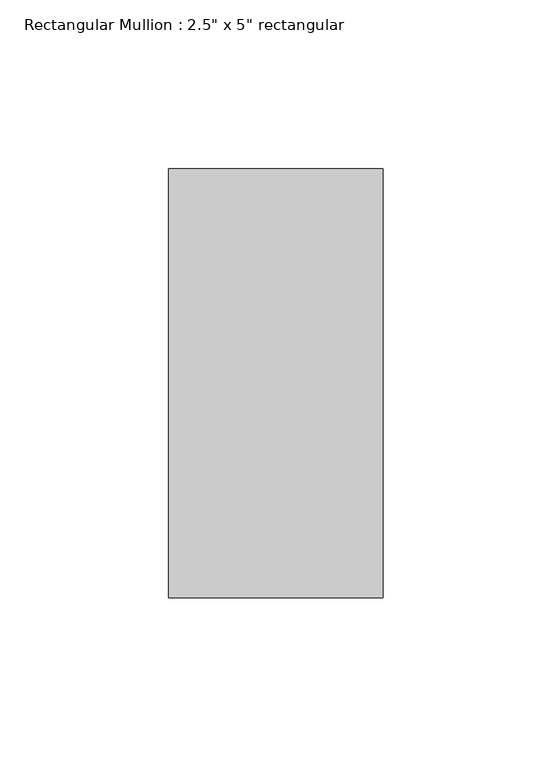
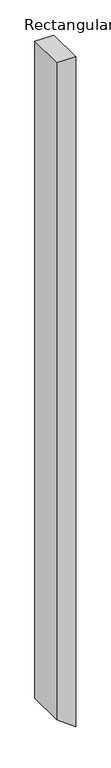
"""IFC4 building model written with IfcOpenShell, lengths in millimetres: member geometry."""

from ifc_helpers import new_model, si_unit, frame, origin, place, context, project, spatial, polyline, outline, extrude, source, transform, mapped, element, save


def member_66bcd2d2(model_context):
    return source(origin(), model_context, "Body", "SweptSolid", [
        extrude(outline(polyline([(0.0, 0.0), (0.6562719, -63.5), (-2334.7567002, -63.5), (-2382.1318198, 0.0), (0.0, 0.0)])), frame((0.0, -63.5, 0.0), z_axis=(0.0, 1.0, 0.0), x_axis=(0.0, 0.0, 1.0)), (0.0, 0.0, 1.0), 127.0),
    ])


if __name__ == "__main__":
    model = new_model("IFC4")
    model_context = context("Model", 3, world=origin())
    ifc_project = project(units=[si_unit("LENGTHUNIT", "METRE", prefix="MILLI")], contexts=[model_context])
    site = spatial("IfcSite", under=ifc_project)
    building = spatial("IfcBuilding", under=site)
    placement = place(None, origin())
    member_shape = member_66bcd2d2(model_context)
    element("IfcMember", 1, ObjectType="Rectangular Mullion : 2.5\" x 5\" rectangular", at=placement, inside=building, context=model_context, shape_type="MappedRepresentation", body=[
        mapped(member_shape, transform((0.0, 0.0, 0.0), x_axis=(1.0, 0.0, 0.0), y_axis=(0.0, 1.0, 0.0), z_axis=(0.0, 0.0, 1.0))),
    ])
    save(model, "model.ifc")
